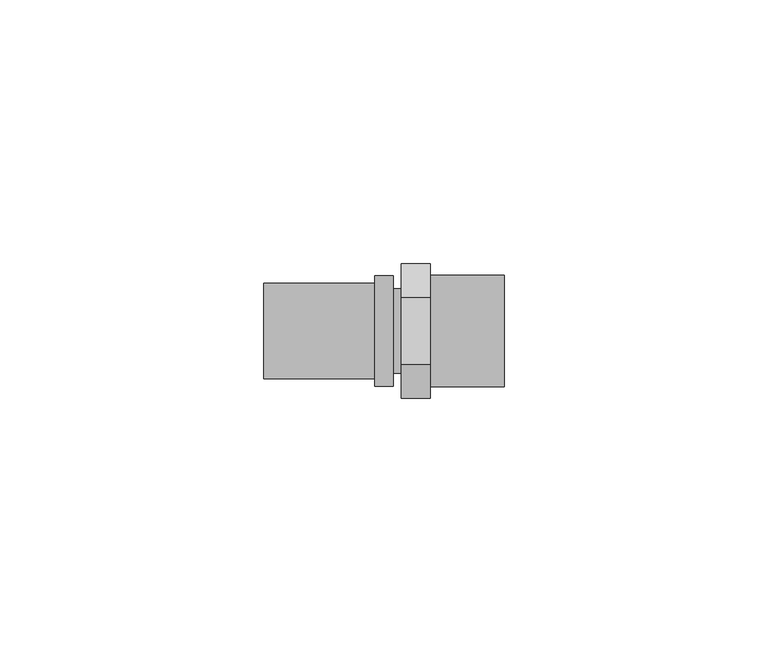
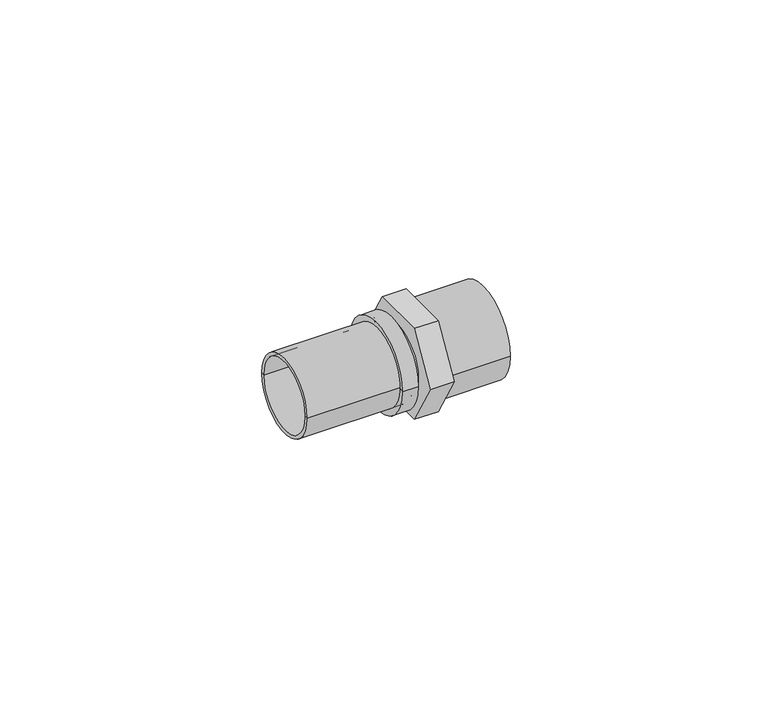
"""IFC4 building model written with IfcOpenShell, lengths in millimetres: pipe fitting geometry, Astra Gás - Conexão Fixa Macho - GRC : Astra Gás - Conexão Fixa Macho - GRC."""

from ifc_helpers import new_model, si_unit, frame, origin, place, context, project, spatial, polyline, circle_curve, source, transform, mapped, element, save
from ifc_brep_helpers import plane_surface, cylinder_surface, revolved_surface, advanced_brep


def pipe_fitting_f01c144f(model_context):
    return source(origin(), model_context, "Body", "AdvancedBrep", [
        advanced_brep(
        [(-26.0, -9.05, 0.0), (-26.0, 9.05, 0.0), (-2.5, 9.05, 0.0), (-2.5, -9.05, 0.0), (-26.0, -8.25, 0.0), (-26.0, 8.25, 0.0), (-2.5, -8.25, 0.0), (-2.5, 8.25, 0.0)],
        [
            (0, 1, circle_curve(frame((-26.0, 0.0, 0.0), z_axis=(1.0, 0.0, 0.0), x_axis=(0.0, 1.0, 0.0)), 9.05)),
            (1, 2),
            (2, 3, circle_curve(frame((-2.5, 0.0, 0.0), z_axis=(-1.0, 0.0, 0.0), x_axis=(0.0, 1.0, 0.0)), 9.05)),
            (3, 0),
            (1, 0, circle_curve(frame((-26.0, 0.0, 0.0), z_axis=(1.0, 0.0, 0.0), x_axis=(0.0, 1.0, 0.0)), 9.05)),
            (3, 2, circle_curve(frame((-2.5, 0.0, 0.0), z_axis=(-1.0, 0.0, 0.0), x_axis=(0.0, 1.0, 0.0)), 9.05)),
            (4, 5, circle_curve(frame((-26.0, 0.0, 0.0), z_axis=(1.0, 0.0, 0.0), x_axis=(0.0, 1.0, 0.0)), 8.25)),
            (5, 1),
            (0, 4),
            (5, 4, circle_curve(frame((-26.0, 0.0, 0.0), z_axis=(1.0, 0.0, 0.0), x_axis=(0.0, 1.0, 0.0)), 8.25)),
            (6, 7, circle_curve(frame((-2.5, 0.0, 0.0), z_axis=(1.0, 0.0, 0.0), x_axis=(0.0, 1.0, 0.0)), 8.25)),
            (7, 5),
            (4, 6),
            (7, 6, circle_curve(frame((-2.5, 0.0, 0.0), z_axis=(1.0, 0.0, 0.0), x_axis=(0.0, 1.0, 0.0)), 8.25)),
            (2, 7),
            (6, 3),
        ],
        [
            cylinder_surface(frame((-26.0, 0.0, 0.0), z_axis=(-1.0, 0.0, 0.0), x_axis=(0.0, 1.0, 0.0)), 9.05),
            plane_surface(frame((-26.0, 0.0, 0.0), z_axis=(-1.0, 0.0, 0.0), x_axis=(0.0, 1.0, 0.0))),
            revolved_surface(polyline([(-26.0, 8.25, 0.0), (-2.5, 8.25, 0.0)]), (-26.0, 0.0, 0.0), (-1.0, 0.0, 0.0)),
            plane_surface(frame((-2.5, 0.0, 0.0), z_axis=(1.0, 0.0, 0.0), x_axis=(0.0, 1.0, 0.0))),
        ],
        [
            (0, [[1, 2, 3, 4]]),
            (0, [[5, -4, 6, -2]]),
            (1, [[7, 8, -1, 9]]),
            (1, [[10, -9, -5, -8]]),
            (2, [[11, 12, -7, 13]]),
            (2, [[14, -13, -10, -12]]),
            (3, [[-3, 15, -11, 16]]),
            (3, [[-6, -16, -14, -15]]),
        ],
    ),
        advanced_brep(
        [(-2.5, -9.05, 0.0), (-2.5, 9.05, 0.0), (-5.0, 9.05, 0.0), (-5.0, -9.05, 0.0), (-2.5, 0.0, 0.0), (0.0, -8.0, 0.0), (0.0, 8.0, 0.0), (0.0, 0.0, 0.0), (-1.5, -8.0, 0.0), (-1.5, 8.0, 0.0), (-1.5, -10.5, 0.0), (-1.5, 10.5, 0.0), (-5.0, -10.5, 0.0), (-5.0, 10.5, 0.0)],
        [
            (0, 1, circle_curve(frame((-2.5, 0.0, 0.0), z_axis=(1.0, 0.0, 0.0), x_axis=(0.0, 1.0, 0.0)), 9.05)),
            (1, 2),
            (2, 3, circle_curve(frame((-5.0, 0.0, 0.0), z_axis=(-1.0, 0.0, 0.0), x_axis=(0.0, 1.0, 0.0)), 9.05)),
            (3, 0),
            (1, 0, circle_curve(frame((-2.5, 0.0, 0.0), z_axis=(1.0, 0.0, 0.0), x_axis=(0.0, 1.0, 0.0)), 9.05)),
            (3, 2, circle_curve(frame((-5.0, 0.0, 0.0), z_axis=(-1.0, 0.0, 0.0), x_axis=(0.0, 1.0, 0.0)), 9.05)),
            (4, 1),
            (0, 4),
            (5, 6, circle_curve(frame((0.0, 0.0, 0.0), z_axis=(1.0, 0.0, 0.0), x_axis=(0.0, 1.0, 0.0)), 8.0)),
            (6, 7),
            (7, 5),
            (6, 5, circle_curve(frame((0.0, 0.0, 0.0), z_axis=(1.0, 0.0, 0.0), x_axis=(0.0, 1.0, 0.0)), 8.0)),
            (8, 9, circle_curve(frame((-1.5, 0.0, 0.0), z_axis=(1.0, 0.0, 0.0), x_axis=(0.0, 1.0, 0.0)), 8.0)),
            (9, 6),
            (5, 8),
            (9, 8, circle_curve(frame((-1.5, 0.0, 0.0), z_axis=(1.0, 0.0, 0.0), x_axis=(0.0, 1.0, 0.0)), 8.0)),
            (10, 11, circle_curve(frame((-1.5, 0.0, 0.0), z_axis=(1.0, 0.0, 0.0), x_axis=(0.0, 1.0, 0.0)), 10.5)),
            (11, 9),
            (8, 10),
            (11, 10, circle_curve(frame((-1.5, 0.0, 0.0), z_axis=(1.0, 0.0, 0.0), x_axis=(0.0, 1.0, 0.0)), 10.5)),
            (12, 13, circle_curve(frame((-5.0, 0.0, 0.0), z_axis=(1.0, 0.0, 0.0), x_axis=(0.0, 1.0, 0.0)), 10.5)),
            (13, 11),
            (10, 12),
            (13, 12, circle_curve(frame((-5.0, 0.0, 0.0), z_axis=(1.0, 0.0, 0.0), x_axis=(0.0, 1.0, 0.0)), 10.5)),
            (2, 13),
            (12, 3),
        ],
        [
            revolved_surface(polyline([(-5.0, 9.05, 0.0), (-2.5, 9.05, 0.0)]), (-5.0, 0.0, 0.0), (-1.0, 0.0, 0.0)),
            plane_surface(frame((-2.5, 0.0, 0.0), z_axis=(-1.0, 0.0, 0.0), x_axis=(0.0, 1.0, 0.0))),
            plane_surface(frame((0.0, 0.0, 0.0), z_axis=(1.0, 0.0, 0.0), x_axis=(0.0, 1.0, 0.0))),
            cylinder_surface(frame((-5.0, 0.0, 0.0), z_axis=(-1.0, 0.0, 0.0), x_axis=(0.0, 1.0, 0.0)), 8.0),
            plane_surface(frame((-1.5, 0.0, 0.0), z_axis=(1.0, 0.0, 0.0), x_axis=(0.0, 1.0, 0.0))),
            cylinder_surface(frame((-5.0, 0.0, 0.0), z_axis=(-1.0, 0.0, 0.0), x_axis=(0.0, 1.0, 0.0)), 10.5),
            plane_surface(frame((-5.0, 0.0, 0.0), z_axis=(-1.0, 0.0, 0.0), x_axis=(0.0, 1.0, 0.0))),
        ],
        [
            (0, [[1, 2, 3, 4]]),
            (0, [[5, -4, 6, -2]]),
            (1, [[7, -1, 8]]),
            (1, [[-8, -5, -7]]),
            (2, [[9, 10, 11]]),
            (2, [[12, -11, -10]]),
            (3, [[13, 14, -9, 15]]),
            (3, [[16, -15, -12, -14]]),
            (4, [[17, 18, -13, 19]]),
            (4, [[20, -19, -16, -18]]),
            (5, [[21, 22, -17, 23]]),
            (5, [[24, -23, -20, -22]]),
            (6, [[-3, 25, -21, 26]]),
            (6, [[-6, -26, -24, -25]]),
        ],
    ),
        advanced_brep(
        [(5.5, -12.7017059, 0.0), (5.5, -6.350853, -11.0), (5.5, 6.350853, -11.0), (5.5, 12.7017059, 0.0), (5.5, 6.350853, 11.0), (5.5, -6.350853, 11.0), (5.5, 10.55, 0.0), (5.5, -10.55, 0.0), (5.5, -7.5, 0.0), (5.5, 7.5, 0.0), (0.0, -12.7017059, 0.0), (0.0, -6.350853, 11.0), (0.0, 6.350853, 11.0), (0.0, 12.7017059, 0.0), (0.0, 6.350853, -11.0), (0.0, -6.350853, -11.0), (19.5, 10.55, 0.0), (19.5, -10.55, 0.0), (19.5, -7.5, 0.0), (19.5, 7.5, 0.0)],
        [
            (0, 1),
            (1, 2),
            (2, 3),
            (3, 4),
            (4, 5),
            (5, 0),
            (6, 7, circle_curve(frame((5.5, 0.0, 0.0), z_axis=(-1.0, 0.0, 0.0), x_axis=(0.0, 1.0, 0.0)), 10.55)),
            (7, 6, circle_curve(frame((5.5, 0.0, 0.0), z_axis=(-1.0, 0.0, 0.0), x_axis=(0.0, 1.0, 0.0)), 10.55)),
            (8, 9, circle_curve(frame((5.5, 0.0, 0.0), z_axis=(1.0, 0.0, 0.0), x_axis=(0.0, 1.0, 0.0)), 7.5)),
            (9, 8, circle_curve(frame((5.5, 0.0, 0.0), z_axis=(1.0, 0.0, 0.0), x_axis=(0.0, 1.0, 0.0)), 7.5)),
            (10, 11),
            (11, 12),
            (12, 13),
            (13, 14),
            (14, 15),
            (15, 10),
            (0, 10),
            (15, 1),
            (14, 2),
            (13, 3),
            (12, 4),
            (11, 5),
            (6, 16),
            (16, 17, circle_curve(frame((19.5, 0.0, 0.0), z_axis=(-1.0, 0.0, 0.0), x_axis=(0.0, 1.0, 0.0)), 10.55)),
            (17, 7),
            (17, 16, circle_curve(frame((19.5, 0.0, 0.0), z_axis=(-1.0, 0.0, 0.0), x_axis=(0.0, 1.0, 0.0)), 10.55)),
            (18, 19, circle_curve(frame((19.5, 0.0, 0.0), z_axis=(1.0, 0.0, 0.0), x_axis=(0.0, 1.0, 0.0)), 7.5)),
            (19, 9),
            (8, 18),
            (19, 18, circle_curve(frame((19.5, 0.0, 0.0), z_axis=(1.0, 0.0, 0.0), x_axis=(0.0, 1.0, 0.0)), 7.5)),
            (16, 19),
            (18, 17),
        ],
        [
            plane_surface(frame((5.5, -12.7017059, 0.0), z_axis=(1.0000000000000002, 0.0, 0.0), x_axis=(0.0, 0.5000000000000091, -0.8660254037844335))),
            plane_surface(frame((0.0, -12.7017059, 0.0), z_axis=(-1.0000000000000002, 0.0, 0.0), x_axis=(0.0, -0.5000000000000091, 0.8660254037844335))),
            plane_surface(frame((5.5, -12.7017059, 0.0), z_axis=(0.0, -0.8660254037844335, -0.5000000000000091), x_axis=(-1.0, 0.0, 0.0))),
            plane_surface(frame((5.5, -6.350853, -11.0), z_axis=(0.0, 0.0, -1.0), x_axis=(-1.0, 0.0, 0.0))),
            plane_surface(frame((5.5, 6.350853, -11.0), z_axis=(0.0, 0.8660254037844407, -0.49999999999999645), x_axis=(-1.0, 0.0, 0.0))),
            plane_surface(frame((5.5, 12.7017059, 0.0), z_axis=(0.0, 0.866025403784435, 0.5000000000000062), x_axis=(-1.0, 0.0, 0.0))),
            plane_surface(frame((5.5, 6.350853, 11.0), z_axis=(0.0, 0.0, 1.0), x_axis=(-1.0, 0.0, 0.0))),
            plane_surface(frame((5.5, -6.350853, 11.0), z_axis=(0.0, -0.8660254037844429, 0.4999999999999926), x_axis=(-1.0, 0.0, 0.0))),
            cylinder_surface(frame((0.0, 0.0, 0.0), z_axis=(-1.0, 0.0, 0.0), x_axis=(0.0, 1.0, 0.0)), 10.55),
            revolved_surface(polyline([(5.5, 7.5, 0.0), (19.5, 7.5, 0.0)]), (0.0, 0.0, 0.0), (-1.0, 0.0, 0.0)),
            plane_surface(frame((19.5, 0.0, 0.0), z_axis=(1.0, 0.0, 0.0), x_axis=(0.0, 1.0, 0.0))),
        ],
        [
            (0, [[1, 2, 3, 4, 5, 6], [7, 8]]),
            (0, [[9, 10]]),
            (1, [[11, 12, 13, 14, 15, 16]]),
            (2, [[-1, 17, -16, 18]]),
            (3, [[-2, -18, -15, 19]]),
            (4, [[-3, -19, -14, 20]]),
            (5, [[-4, -20, -13, 21]]),
            (6, [[-5, -21, -12, 22]]),
            (7, [[-6, -22, -11, -17]]),
            (8, [[23, 24, 25, -7]]),
            (8, [[-23, -8, -25, 26]]),
            (9, [[27, 28, -9, 29]]),
            (9, [[-28, 30, -29, -10]]),
            (10, [[-24, 31, -27, 32]]),
            (10, [[-26, -32, -30, -31]]),
        ],
    ),
    ])


if __name__ == "__main__":
    model = new_model("IFC4")
    model_context = context("Model", 3, world=origin())
    ifc_project = project(units=[si_unit("LENGTHUNIT", "METRE", prefix="MILLI")], contexts=[model_context])
    site = spatial("IfcSite", under=ifc_project)
    building = spatial("IfcBuilding", under=site)
    placement = place(None, origin())
    pipe_fitting_shape = pipe_fitting_f01c144f(model_context)
    element("IfcPipeFitting", 1, ObjectType="Astra Gás - Conexão Fixa Macho - GRC : Astra Gás - Conexão Fixa Macho - GRC", at=placement, inside=building, context=model_context, shape_type="MappedRepresentation", body=[
        mapped(pipe_fitting_shape, transform((0.0, 0.0, 0.0), x_axis=(1.0, 0.0, 0.0), y_axis=(0.0, 1.0, 0.0), z_axis=(0.0, 0.0, 1.0))),
    ])
    save(model, "model.ifc")
